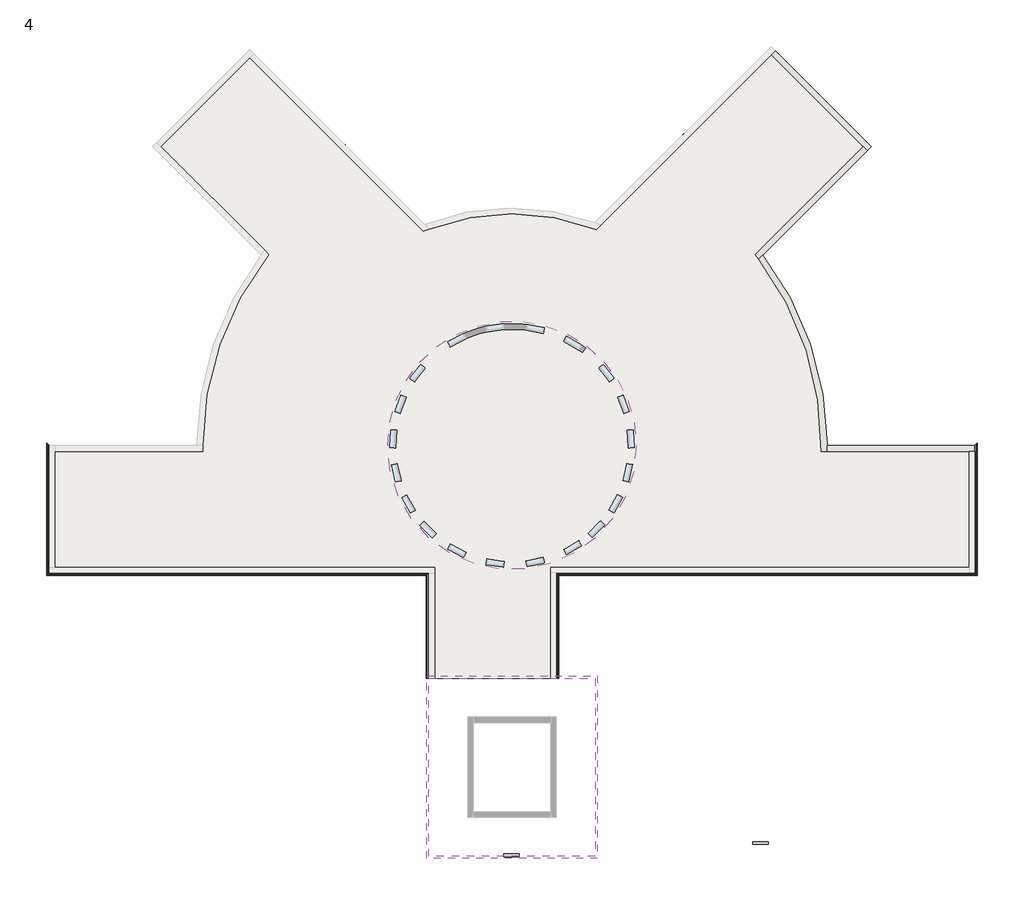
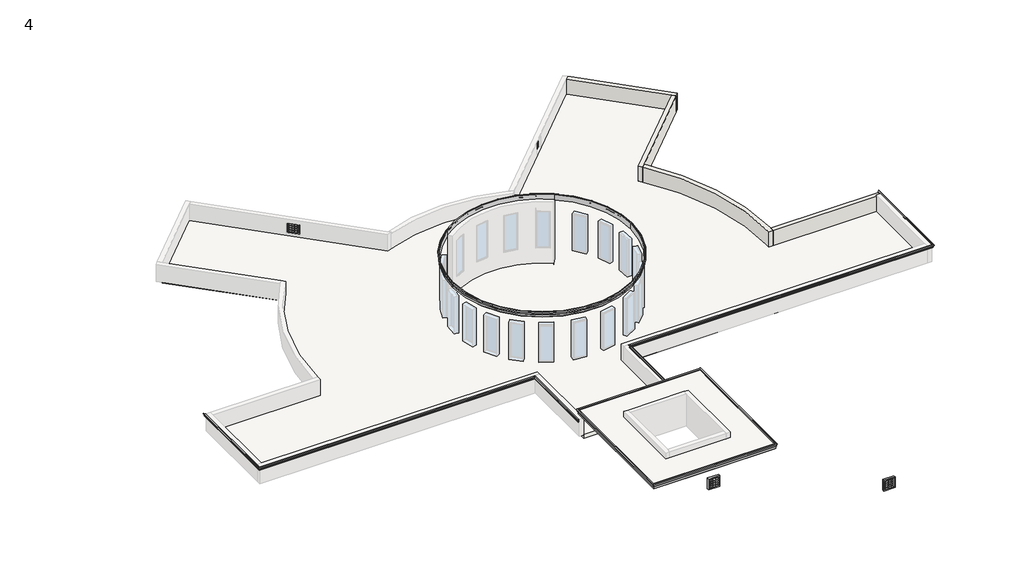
# One storey, part 2 of 2: 7 proxies, 4 walls, 2 slabs.
"""IFC4 building model written with IfcOpenShell, lengths in millimetres."""

from ifc_helpers import new_model, si_unit, point, frame, frame_2d, origin, place, context, project, spatial, polyline, circle_curve, ellipse_curve, trimmed, segment, composite_curve, outline, extrude, faceted_brep, transform, mapped, element, save
from ifc_brep_helpers import plane_surface, cylinder_surface, revolved_surface, advanced_brep
from components import generic_models_3ce4d895, generic_models_3e702864, generic_models_2_generic_models_2_a96ec142, generic_models_3_generic_models_2_9ccc242b

model = new_model("IFC4")

# Units and contexts
model_context = context("Model", 3, world=origin())
ifc_project = project(units=[si_unit("LENGTHUNIT", "METRE", prefix="MILLI")], contexts=[model_context])

# Site, building, storey
site = spatial("IfcSite", under=ifc_project)
building = spatial("IfcBuilding", under=site)
storey = spatial("IfcBuildingStorey", under=building, Name="4", Elevation=7162.8)

# Proxies
placement = place(None, origin())
generic_models_shape = generic_models_3ce4d895(model_context)
element("IfcBuildingElementProxy", 1, Name="stone jhali : stone jhali", ObjectType="stone jhali : stone jhali", at=placement, inside=storey, context=model_context, shape_type="MappedRepresentation", body=[
    mapped(generic_models_shape, transform((-8401.2950906, -15570.7193311, 7639.05), x_axis=(1.0, 0.0, 0.0), y_axis=(0.0, 1.0, 0.0), z_axis=(0.0, 0.0, 1.0))),
])
element("IfcBuildingElementProxy", 2, Name="stone jhali : stone jhali", ObjectType="stone jhali : stone jhali", at=placement, inside=storey, context=model_context, shape_type="MappedRepresentation", body=[
    mapped(generic_models_shape, transform((1403.1049094, -15088.1193311, 3835.4), x_axis=(1.0, 0.0, 0.0), y_axis=(0.0, 1.0, 0.0), z_axis=(0.0, 0.0, 1.0))),
])
element("IfcBuildingElementProxy", 3, Name="stone jhali : stone jhali", ObjectType="stone jhali : stone jhali", at=placement, inside=storey, context=model_context, shape_type="MappedRepresentation", body=[
    mapped(generic_models_shape, transform((-15084.1651691, 12346.4608654, 7615.753114), x_axis=(-0.7071067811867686, 0.7071067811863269, 0.0), y_axis=(-0.7071067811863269, -0.7071067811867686, 0.0), z_axis=(0.0, 0.0, 1.0))),
])
generic_models_2_shape = generic_models_3e702864(model_context)
element("IfcBuildingElementProxy", 4, Name="stone jhali : stone jhali", ObjectType="stone jhali : stone jhali", at=placement, inside=storey, context=model_context, shape_type="MappedRepresentation", body=[
    mapped(generic_models_2_shape, transform((-1745.1990559, 12538.4400572, 7615.753114), x_axis=(0.7071067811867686, 0.7071067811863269, 0.0), y_axis=(-0.7071067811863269, 0.7071067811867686, 0.0), z_axis=(0.0, 0.0, 1.0))),
])
element("IfcBuildingElementProxy", 5, Name="Cornice 3", ObjectType="Cornice 3", at=placement, inside=storey, context=model_context, shape_type="AdvancedBrep", body=[
    advanced_brep(
    [(-26713.7780453, -4572.5193311, 8153.4), (-26637.5780453, -4496.3193311, 8153.4), (-26637.5780453, -4496.3193311, 8001.0), (-26688.3780453, -4547.1193311, 8001.0), (-26688.3780453, -4547.1193311, 8020.05), (-26688.3780453, -4547.1193311, 8039.1), (-26688.3780453, -4547.1193311, 8064.5), (-26695.5217953, -4554.2630811, 8064.5), (-26713.7780453, -4572.5193311, 8093.9009114), (-26713.7780453, -4572.5193311, 8108.95), (-11741.3950906, -4572.5193311, 8153.4), (-11741.3950906, -4572.5193311, 8108.95), (-11741.3950906, -4572.5193311, 8093.9009114), (-11723.1388406, -4554.2630811, 8064.5), (-11715.9950906, -4547.1193311, 8064.5), (-11715.9950906, -4547.1193311, 8039.1), (-11715.9950906, -4547.1193311, 8020.05), (-11715.9950906, -4547.1193311, 8001.0), (-11665.1950906, -4496.3193311, 8001.0), (-11665.1950906, -4496.3193311, 8153.4)],
    [
        (0, 1),
        (1, 2),
        (2, 3),
        (3, 4),
        (4, 5, ellipse_curve(frame((-26688.3780453, -4547.1193311, 8029.575), z_axis=(-0.7071067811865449, 0.7071067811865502, 0.0), x_axis=(-0.7071067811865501, -0.7071067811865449, 0.0)), 13.4703842, 9.525)),
        (5, 6),
        (6, 7),
        (7, 8, ellipse_curve(frame((-26717.0344437, -4575.7757296, 8071.5103895), z_axis=(0.7071067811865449, -0.7071067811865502, 0.0), x_axis=(0.7071067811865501, 0.7071067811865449, 0.0)), 31.9981126, 22.6260824)),
        (8, 9),
        (9, 0, ellipse_curve(frame((-26713.7780453, -4572.5193311, 8131.175), z_axis=(-0.7071067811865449, 0.7071067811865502, 0.0), x_axis=(-0.7071067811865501, -0.7071067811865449, 0.0)), 31.4308964, 22.225)),
        (10, 11, ellipse_curve(frame((-11741.3950906, -4572.5193311, 8131.175), z_axis=(0.7071067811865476, -0.7071067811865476, 0.0), x_axis=(-0.7071067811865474, -0.7071067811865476, 0.0)), 31.4308964, 22.225)),
        (11, 12),
        (12, 13, ellipse_curve(frame((-11744.651489, -4575.7757296, 8071.5103895), z_axis=(-0.7071067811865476, 0.7071067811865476, 0.0), x_axis=(0.7071067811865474, 0.7071067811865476, 0.0)), 31.9981126, 22.6260824)),
        (13, 14),
        (14, 15),
        (15, 16, ellipse_curve(frame((-11715.9950906, -4547.1193311, 8029.575), z_axis=(0.7071067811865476, -0.7071067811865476, 0.0), x_axis=(-0.7071067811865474, -0.7071067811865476, 0.0)), 13.4703842, 9.525)),
        (16, 17),
        (17, 18),
        (18, 19),
        (19, 10),
        (0, 10),
        (19, 1),
        (18, 2),
        (17, 3),
        (16, 4),
        (15, 5),
        (14, 6),
        (13, 7),
        (12, 8),
        (11, 9),
    ],
    [
        plane_surface(frame((-26637.5780453, -4496.3193311, 7696.2), z_axis=(-0.7071067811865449, 0.7071067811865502, 0.0), x_axis=(0.7071067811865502, 0.7071067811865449, 0.0))),
        plane_surface(frame((-11665.1950906, -4496.3193311, 8305.8), z_axis=(0.7071067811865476, -0.7071067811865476, 0.0), x_axis=(-0.7071067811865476, -0.7071067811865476, 0.0))),
        plane_surface(frame((-26713.7780453, -4572.5193311, 8153.4), z_axis=(0.0, 0.0, 1.0), x_axis=(1.0, 0.0, 0.0))),
        plane_surface(frame((-26637.5780453, -4496.3193311, 8153.4), z_axis=(0.0, 1.0, 0.0), x_axis=(1.0, 0.0, 0.0))),
        plane_surface(frame((-26637.5780453, -4496.3193311, 8001.0), z_axis=(0.0, 0.0, -1.0), x_axis=(1.0, 0.0, 0.0))),
        plane_surface(frame((-26688.3780453, -4547.1193311, 8001.0), z_axis=(0.0, -1.0, 0.0), x_axis=(1.0, 0.0, 0.0))),
        cylinder_surface(frame((-26637.5780453, -4547.1193311, 8029.575), z_axis=(-1.0, 0.0, 0.0), x_axis=(0.0, 1.0, 0.0)), 9.525),
        plane_surface(frame((-26688.3780453, -4547.1193311, 8039.1), z_axis=(0.0, -1.0, 0.0), x_axis=(1.0, 0.0, 0.0))),
        plane_surface(frame((-26688.3780453, -4547.1193311, 8064.5), z_axis=(0.0, 0.0, -1.0), x_axis=(1.0, 0.0, 0.0))),
        revolved_surface(polyline([(-11722.025406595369, -4553.1496472, 8071.5103895), (-26739.660526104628, -4553.1496472, 8071.5103895)]), (-26637.5780453, -4575.7757296, 8071.5103895), (1.0, 0.0, 0.0)),
        plane_surface(frame((-26713.7780453, -4572.5193311, 8093.9009114), z_axis=(0.0, -1.0, 0.0), x_axis=(1.0, 0.0, 0.0))),
        cylinder_surface(frame((-26637.5780453, -4572.5193311, 8131.175), z_axis=(-1.0, 0.0, 0.0), x_axis=(0.0, 1.0, 0.0)), 22.225),
    ],
    [
        (0, [[1, 2, 3, 4, 5, 6, 7, 8, 9, 10]]),
        (1, [[11, 12, 13, 14, 15, 16, 17, 18, 19, 20]]),
        (2, [[-1, 21, -20, 22]]),
        (3, [[-2, -22, -19, 23]]),
        (4, [[-3, -23, -18, 24]]),
        (5, [[-4, -24, -17, 25]]),
        (6, [[-5, -25, -16, 26]]),
        (7, [[-6, -26, -15, 27]]),
        (8, [[-7, -27, -14, 28]]),
        (9, [[-8, -28, -13, 29]]),
        (10, [[-9, -29, -12, 30]]),
        (11, [[-10, -30, -11, -21]]),
    ],
),
    advanced_brep(
    [(-6559.7950906, -4572.5193311, 8153.4), (-6635.9950906, -4496.3193311, 8153.4), (-6635.9950906, -4496.3193311, 8001.0), (-6585.1950906, -4547.1193311, 8001.0), (-6585.1950906, -4547.1193311, 8020.05), (-6585.1950906, -4547.1193311, 8039.1), (-6585.1950906, -4547.1193311, 8064.5), (-6578.0513406, -4554.2630811, 8064.5), (-6559.7950906, -4572.5193311, 8093.9009114), (-6559.7950906, -4572.5193311, 8108.95), (9937.5049094, -4572.5193311, 8153.4), (9937.5049094, -4572.5193311, 8108.95), (9937.5049094, -4572.5193311, 8093.9009114), (9919.2486594, -4554.2630811, 8064.5), (9912.1049094, -4547.1193311, 8064.5), (9912.1049094, -4547.1193311, 8039.1), (9912.1049094, -4547.1193311, 8020.05), (9912.1049094, -4547.1193311, 8001.0), (9861.3049094, -4496.3193311, 8001.0), (9861.3049094, -4496.3193311, 8153.4)],
    [
        (0, 1),
        (1, 2),
        (2, 3),
        (3, 4),
        (4, 5, ellipse_curve(frame((-6585.1950906, -4547.1193311, 8029.575), z_axis=(-0.7071067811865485, -0.7071067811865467, 0.0), x_axis=(-0.7071067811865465, 0.7071067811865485, 0.0)), 13.4703842, 9.525)),
        (5, 6),
        (6, 7),
        (7, 8, ellipse_curve(frame((-6556.5386921, -4575.7757296, 8071.5103895), z_axis=(0.7071067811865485, 0.7071067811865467, 0.0), x_axis=(0.7071067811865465, -0.7071067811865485, 0.0)), 31.9981126, 22.6260824)),
        (8, 9),
        (9, 0, ellipse_curve(frame((-6559.7950906, -4572.5193311, 8131.175), z_axis=(-0.7071067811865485, -0.7071067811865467, 0.0), x_axis=(-0.7071067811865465, 0.7071067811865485, 0.0)), 31.4308964, 22.225)),
        (10, 11, ellipse_curve(frame((9937.5049094, -4572.5193311, 8131.175), z_axis=(0.7071067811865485, 0.7071067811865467, 0.0), x_axis=(-0.7071067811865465, 0.7071067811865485, 0.0)), 31.4308964, 22.225)),
        (11, 12),
        (12, 13, ellipse_curve(frame((9940.7613079, -4575.7757296, 8071.5103895), z_axis=(-0.7071067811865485, -0.7071067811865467, 0.0), x_axis=(0.7071067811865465, -0.7071067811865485, 0.0)), 31.9981126, 22.6260824)),
        (13, 14),
        (14, 15),
        (15, 16, ellipse_curve(frame((9912.1049094, -4547.1193311, 8029.575), z_axis=(0.7071067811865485, 0.7071067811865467, 0.0), x_axis=(-0.7071067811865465, 0.7071067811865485, 0.0)), 13.4703842, 9.525)),
        (16, 17),
        (17, 18),
        (18, 19),
        (19, 10),
        (0, 10),
        (19, 1),
        (18, 2),
        (17, 3),
        (16, 4),
        (15, 5),
        (14, 6),
        (13, 7),
        (12, 8),
        (11, 9),
    ],
    [
        plane_surface(frame((-6635.9950906, -4496.3193311, 8305.8), z_axis=(-0.7071067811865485, -0.7071067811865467, 0.0), x_axis=(0.7071067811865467, -0.7071067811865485, 0.0))),
        plane_surface(frame((9861.3049094, -4496.3193311, 7696.2), z_axis=(0.7071067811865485, 0.7071067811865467, 0.0), x_axis=(-0.7071067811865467, 0.7071067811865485, 0.0))),
        plane_surface(frame((-6559.7950906, -4572.5193311, 8153.4), z_axis=(0.0, 0.0, 1.0), x_axis=(1.0, 0.0, 0.0))),
        plane_surface(frame((-6635.9950906, -4496.3193311, 8153.4), z_axis=(0.0, 1.0, 0.0), x_axis=(1.0, 0.0, 0.0))),
        plane_surface(frame((-6635.9950906, -4496.3193311, 8001.0), z_axis=(0.0, 0.0, -1.0), x_axis=(1.0, 0.0, 0.0))),
        plane_surface(frame((-6585.1950906, -4547.1193311, 8001.0), z_axis=(0.0, -1.0, 0.0), x_axis=(1.0, 0.0, 0.0))),
        cylinder_surface(frame((-6635.9950906, -4547.1193311, 8029.575), z_axis=(-1.0, 0.0, 0.0), x_axis=(0.0, 1.0, 0.0)), 9.525),
        plane_surface(frame((-6585.1950906, -4547.1193311, 8039.1), z_axis=(0.0, -1.0, 0.0), x_axis=(1.0, 0.0, 0.0))),
        plane_surface(frame((-6585.1950906, -4547.1193311, 8064.5), z_axis=(0.0, 0.0, -1.0), x_axis=(1.0, 0.0, 0.0))),
        revolved_surface(polyline([(9963.38739030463, -4553.1496472, 8071.5103895), (-6579.16477450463, -4553.1496472, 8071.5103895)]), (-6635.9950906, -4575.7757296, 8071.5103895), (1.0, 0.0, 0.0)),
        plane_surface(frame((-6559.7950906, -4572.5193311, 8093.9009114), z_axis=(0.0, -1.0, 0.0), x_axis=(1.0, 0.0, 0.0))),
        cylinder_surface(frame((-6635.9950906, -4572.5193311, 8131.175), z_axis=(-1.0, 0.0, 0.0), x_axis=(0.0, 1.0, 0.0)), 22.225),
    ],
    [
        (0, [[1, 2, 3, 4, 5, 6, 7, 8, 9, 10]]),
        (1, [[11, 12, 13, 14, 15, 16, 17, 18, 19, 20]]),
        (2, [[-1, 21, -20, 22]]),
        (3, [[-2, -22, -19, 23]]),
        (4, [[-3, -23, -18, 24]]),
        (5, [[-4, -24, -17, 25]]),
        (6, [[-5, -25, -16, 26]]),
        (7, [[-6, -26, -15, 27]]),
        (8, [[-7, -27, -14, 28]]),
        (9, [[-8, -28, -13, 29]]),
        (10, [[-9, -29, -12, 30]]),
        (11, [[-10, -30, -11, -21]]),
    ],
),
    advanced_brep(
    [(-6559.7950906, -8649.2193311, 8153.4), (-6635.9950906, -8649.2193311, 8153.4), (-6635.9950906, -8649.2193311, 8001.0), (-6585.1950906, -8649.2193311, 8001.0), (-6585.1950906, -8649.2193311, 8020.05), (-6585.1950906, -8649.2193311, 8039.1), (-6585.1950906, -8649.2193311, 8064.5), (-6578.0513406, -8649.2193311, 8064.5), (-6559.7950906, -8649.2193311, 8093.9009114), (-6559.7950906, -8649.2193311, 8108.95), (-6559.7950906, -4572.5193311, 8153.4), (-6559.7950906, -4572.5193311, 8108.95), (-6559.7950906, -4572.5193311, 8093.9009114), (-6578.0513406, -4554.2630811, 8064.5), (-6585.1950906, -4547.1193311, 8064.5), (-6585.1950906, -4547.1193311, 8039.1), (-6585.1950906, -4547.1193311, 8020.05), (-6585.1950906, -4547.1193311, 8001.0), (-6635.9950906, -4496.3193311, 8001.0), (-6635.9950906, -4496.3193311, 8153.4)],
    [
        (0, 1),
        (1, 2),
        (2, 3),
        (3, 4),
        (4, 5, circle_curve(frame((-6585.1950906, -8649.2193311, 8029.575), z_axis=(0.0, -1.0, 0.0), x_axis=(-1.0, 0.0, 0.0)), 9.525)),
        (5, 6),
        (6, 7),
        (7, 8, circle_curve(frame((-6556.5386921, -8649.2193311, 8071.5103895), z_axis=(0.0, 1.0, 0.0), x_axis=(-1.0, 0.0, 0.0)), 22.6260824)),
        (8, 9),
        (9, 0, circle_curve(frame((-6559.7950906, -8649.2193311, 8131.175), z_axis=(0.0, -1.0, 0.0), x_axis=(-1.0, 0.0, 0.0)), 22.225)),
        (10, 11, ellipse_curve(frame((-6559.7950906, -4572.5193311, 8131.175), z_axis=(0.7071067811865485, 0.7071067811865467, 0.0), x_axis=(0.7071067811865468, -0.7071067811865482, 0.0)), 31.4308964, 22.225)),
        (11, 12),
        (12, 13, ellipse_curve(frame((-6556.5386921, -4575.7757296, 8071.5103895), z_axis=(-0.7071067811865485, -0.7071067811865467, 0.0), x_axis=(-0.7071067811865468, 0.7071067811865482, 0.0)), 31.9981126, 22.6260824)),
        (13, 14),
        (14, 15),
        (15, 16, ellipse_curve(frame((-6585.1950906, -4547.1193311, 8029.575), z_axis=(0.7071067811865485, 0.7071067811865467, 0.0), x_axis=(0.7071067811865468, -0.7071067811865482, 0.0)), 13.4703842, 9.525)),
        (16, 17),
        (17, 18),
        (18, 19),
        (19, 10),
        (0, 10),
        (19, 1),
        (18, 2),
        (17, 3),
        (16, 4),
        (15, 5),
        (14, 6),
        (13, 7),
        (12, 8),
        (11, 9),
    ],
    [
        plane_surface(frame((-6808.9632976, -8649.2193311, 8001.0), z_axis=(0.0, -1.0, 0.0), x_axis=(0.0, 0.0, 1.0))),
        plane_surface(frame((-6635.9950906, -4496.3193311, 8305.8), z_axis=(0.7071067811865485, 0.7071067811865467, 0.0), x_axis=(0.7071067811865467, -0.7071067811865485, 0.0))),
        plane_surface(frame((-6559.7950906, -8649.2193311, 8153.4), z_axis=(0.0, 0.0, 1.0), x_axis=(0.0, 1.0, 0.0))),
        plane_surface(frame((-6635.9950906, -8649.2193311, 8153.4), z_axis=(-1.0, 0.0, 0.0), x_axis=(0.0, 1.0, 0.0))),
        plane_surface(frame((-6635.9950906, -8649.2193311, 8001.0), z_axis=(0.0, 0.0, -1.0), x_axis=(0.0, 1.0, 0.0))),
        plane_surface(frame((-6585.1950906, -8649.2193311, 8001.0), z_axis=(1.0, 0.0, 0.0), x_axis=(0.0, 1.0, 0.0))),
        cylinder_surface(frame((-6585.1950906, -8649.2193311, 8029.575), z_axis=(0.0, -1.0, 0.0), x_axis=(-1.0, 0.0, 0.0)), 9.525),
        plane_surface(frame((-6585.1950906, -8649.2193311, 8039.1), z_axis=(1.0, 0.0, 0.0), x_axis=(0.0, 1.0, 0.0))),
        plane_surface(frame((-6585.1950906, -8649.2193311, 8064.5), z_axis=(0.0, 0.0, -1.0), x_axis=(0.0, 1.0, 0.0))),
        revolved_surface(polyline([(-6579.1647745, -4553.14964719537, 8071.5103895), (-6579.1647745, -8649.2193311, 8071.5103895)]), (-6556.5386921, -8649.2193311, 8071.5103895), (0.0, 1.0, 0.0)),
        plane_surface(frame((-6559.7950906, -8649.2193311, 8093.9009114), z_axis=(1.0, 0.0, 0.0), x_axis=(0.0, 1.0, 0.0))),
        cylinder_surface(frame((-6559.7950906, -8649.2193311, 8131.175), z_axis=(0.0, -1.0, 0.0), x_axis=(-1.0, 0.0, 0.0)), 22.225),
    ],
    [
        (0, [[1, 2, 3, 4, 5, 6, 7, 8, 9, 10]]),
        (1, [[11, 12, 13, 14, 15, 16, 17, 18, 19, 20]]),
        (2, [[-1, 21, -20, 22]]),
        (3, [[-2, -22, -19, 23]]),
        (4, [[-3, -23, -18, 24]]),
        (5, [[-4, -24, -17, 25]]),
        (6, [[-5, -25, -16, 26]]),
        (7, [[-6, -26, -15, 27]]),
        (8, [[-7, -27, -14, 28]]),
        (9, [[-8, -28, -13, 29]]),
        (10, [[-9, -29, -12, 30]]),
        (11, [[-10, -30, -11, -21]]),
    ],
),
    advanced_brep(
    [(9937.5049094, -4572.5193311, 8153.4), (9861.3049094, -4496.3193311, 8153.4), (9861.3049094, -4496.3193311, 8001.0), (9912.1049094, -4547.1193311, 8001.0), (9912.1049094, -4547.1193311, 8020.05), (9912.1049094, -4547.1193311, 8039.1), (9912.1049094, -4547.1193311, 8064.5), (9919.2486594, -4554.2630811, 8064.5), (9937.5049094, -4572.5193311, 8093.9009114), (9937.5049094, -4572.5193311, 8108.95), (9937.5049094, 609.0806689, 8153.4), (9937.5049094, 609.0806689, 8108.95), (9937.5049094, 609.0806689, 8093.9009114), (9919.2486594, 590.8244189, 8064.5), (9912.1049094, 583.6806689, 8064.5), (9912.1049094, 583.6806689, 8039.1), (9912.1049094, 583.6806689, 8020.05), (9912.1049094, 583.6806689, 8001.0), (9861.3049094, 532.8806689, 8001.0), (9861.3049094, 532.8806689, 8153.4)],
    [
        (0, 1),
        (1, 2),
        (2, 3),
        (3, 4),
        (4, 5, ellipse_curve(frame((9912.1049094, -4547.1193311, 8029.575), z_axis=(-0.7071067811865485, -0.7071067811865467, 0.0), x_axis=(0.7071067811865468, -0.7071067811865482, 0.0)), 13.4703842, 9.525)),
        (5, 6),
        (6, 7),
        (7, 8, ellipse_curve(frame((9940.7613079, -4575.7757296, 8071.5103895), z_axis=(0.7071067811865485, 0.7071067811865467, 0.0), x_axis=(-0.7071067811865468, 0.7071067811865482, 0.0)), 31.9981126, 22.6260824)),
        (8, 9),
        (9, 0, ellipse_curve(frame((9937.5049094, -4572.5193311, 8131.175), z_axis=(-0.7071067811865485, -0.7071067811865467, 0.0), x_axis=(0.7071067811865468, -0.7071067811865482, 0.0)), 31.4308964, 22.225)),
        (10, 11, ellipse_curve(frame((9937.5049094, 609.0806689, 8131.175), z_axis=(-0.7071067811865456, 0.7071067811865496, 0.0), x_axis=(-0.7071067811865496, -0.7071067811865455, 0.0)), 31.4308964, 22.225)),
        (11, 12),
        (12, 13, ellipse_curve(frame((9940.7613079, 612.3370673, 8071.5103895), z_axis=(0.7071067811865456, -0.7071067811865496, 0.0), x_axis=(0.7071067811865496, 0.7071067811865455, 0.0)), 31.9981126, 22.6260824)),
        (13, 14),
        (14, 15),
        (15, 16, ellipse_curve(frame((9912.1049094, 583.6806689, 8029.575), z_axis=(-0.7071067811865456, 0.7071067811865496, 0.0), x_axis=(-0.7071067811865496, -0.7071067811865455, 0.0)), 13.4703842, 9.525)),
        (16, 17),
        (17, 18),
        (18, 19),
        (19, 10),
        (0, 10),
        (19, 1),
        (18, 2),
        (17, 3),
        (16, 4),
        (15, 5),
        (14, 6),
        (13, 7),
        (12, 8),
        (11, 9),
    ],
    [
        plane_surface(frame((9861.3049094, -4496.3193311, 7696.2), z_axis=(-0.7071067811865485, -0.7071067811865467, 0.0), x_axis=(-0.7071067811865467, 0.7071067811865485, 0.0))),
        plane_surface(frame((9861.3049094, 532.8806689, 7696.2), z_axis=(-0.7071067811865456, 0.7071067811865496, 0.0), x_axis=(-0.7071067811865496, -0.7071067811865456, 0.0))),
        plane_surface(frame((9937.5049094, -4572.5193311, 8153.4), z_axis=(0.0, 0.0, 1.0), x_axis=(0.0, 1.0, 0.0))),
        plane_surface(frame((9861.3049094, -4496.3193311, 8153.4), z_axis=(-1.0, 0.0, 0.0), x_axis=(0.0, 1.0, 0.0))),
        plane_surface(frame((9861.3049094, -4496.3193311, 8001.0), z_axis=(0.0, 0.0, -1.0), x_axis=(0.0, 1.0, 0.0))),
        plane_surface(frame((9912.1049094, -4547.1193311, 8001.0), z_axis=(1.0, 0.0, 0.0), x_axis=(0.0, 1.0, 0.0))),
        cylinder_surface(frame((9912.1049094, -4496.3193311, 8029.575), z_axis=(0.0, -1.0, 0.0), x_axis=(-1.0, 0.0, 0.0)), 9.525),
        plane_surface(frame((9912.1049094, -4547.1193311, 8039.1), z_axis=(1.0, 0.0, 0.0), x_axis=(0.0, 1.0, 0.0))),
        plane_surface(frame((9912.1049094, -4547.1193311, 8064.5), z_axis=(0.0, 0.0, -1.0), x_axis=(0.0, 1.0, 0.0))),
        revolved_surface(polyline([(9918.1352255, 634.9631497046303, 8071.5103895), (9918.1352255, -4598.40181200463, 8071.5103895)]), (9940.7613079, -4496.3193311, 8071.5103895), (0.0, 1.0, 0.0)),
        plane_surface(frame((9937.5049094, -4572.5193311, 8093.9009114), z_axis=(1.0, 0.0, 0.0), x_axis=(0.0, 1.0, 0.0))),
        cylinder_surface(frame((9937.5049094, -4496.3193311, 8131.175), z_axis=(0.0, -1.0, 0.0), x_axis=(-1.0, 0.0, 0.0)), 22.225),
    ],
    [
        (0, [[1, 2, 3, 4, 5, 6, 7, 8, 9, 10]]),
        (1, [[11, 12, 13, 14, 15, 16, 17, 18, 19, 20]]),
        (2, [[-1, 21, -20, 22]]),
        (3, [[-2, -22, -19, 23]]),
        (4, [[-3, -23, -18, 24]]),
        (5, [[-4, -24, -17, 25]]),
        (6, [[-5, -25, -16, 26]]),
        (7, [[-6, -26, -15, 27]]),
        (8, [[-7, -27, -14, 28]]),
        (9, [[-8, -28, -13, 29]]),
        (10, [[-9, -29, -12, 30]]),
        (11, [[-10, -30, -11, -21]]),
    ],
),
    advanced_brep(
    [(-11741.3950906, -4572.5193311, 8153.4), (-11665.1950906, -4496.3193311, 8153.4), (-11665.1950906, -4496.3193311, 8001.0), (-11715.9950906, -4547.1193311, 8001.0), (-11715.9950906, -4547.1193311, 8020.05), (-11715.9950906, -4547.1193311, 8039.1), (-11715.9950906, -4547.1193311, 8064.5), (-11723.1388406, -4554.2630811, 8064.5), (-11741.3950906, -4572.5193311, 8093.9009114), (-11741.3950906, -4572.5193311, 8108.95), (-11741.3950906, -8649.2193311, 8153.4), (-11741.3950906, -8649.2193311, 8108.95), (-11741.3950906, -8649.2193311, 8093.9009114), (-11723.1388406, -8649.2193311, 8064.5), (-11715.9950906, -8649.2193311, 8064.5), (-11715.9950906, -8649.2193311, 8039.1), (-11715.9950906, -8649.2193311, 8020.05), (-11715.9950906, -8649.2193311, 8001.0), (-11665.1950906, -8649.2193311, 8001.0), (-11665.1950906, -8649.2193311, 8153.4)],
    [
        (0, 1),
        (1, 2),
        (2, 3),
        (3, 4),
        (4, 5, ellipse_curve(frame((-11715.9950906, -4547.1193311, 8029.575), z_axis=(-0.7071067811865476, 0.7071067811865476, 0.0), x_axis=(0.7071067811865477, 0.7071067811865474, 0.0)), 13.4703842, 9.525)),
        (5, 6),
        (6, 7),
        (7, 8, ellipse_curve(frame((-11744.651489, -4575.7757296, 8071.5103895), z_axis=(0.7071067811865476, -0.7071067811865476, 0.0), x_axis=(-0.7071067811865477, -0.7071067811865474, 0.0)), 31.9981126, 22.6260824)),
        (8, 9),
        (9, 0, ellipse_curve(frame((-11741.3950906, -4572.5193311, 8131.175), z_axis=(-0.7071067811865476, 0.7071067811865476, 0.0), x_axis=(0.7071067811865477, 0.7071067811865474, 0.0)), 31.4308964, 22.225)),
        (10, 11, circle_curve(frame((-11741.3950906, -8649.2193311, 8131.175), z_axis=(0.0, -1.0, 0.0), x_axis=(1.0, 0.0, 0.0)), 22.225)),
        (11, 12),
        (12, 13, circle_curve(frame((-11744.651489, -8649.2193311, 8071.5103895), z_axis=(0.0, 1.0, 0.0), x_axis=(1.0, 0.0, 0.0)), 22.6260824)),
        (13, 14),
        (14, 15),
        (15, 16, circle_curve(frame((-11715.9950906, -8649.2193311, 8029.575), z_axis=(0.0, -1.0, 0.0), x_axis=(1.0, 0.0, 0.0)), 9.525)),
        (16, 17),
        (17, 18),
        (18, 19),
        (19, 10),
        (0, 10),
        (19, 1),
        (18, 2),
        (17, 3),
        (16, 4),
        (15, 5),
        (14, 6),
        (13, 7),
        (12, 8),
        (11, 9),
    ],
    [
        plane_surface(frame((-11665.1950906, -4496.3193311, 8305.8), z_axis=(-0.7071067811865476, 0.7071067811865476, 0.0), x_axis=(-0.7071067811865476, -0.7071067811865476, 0.0))),
        plane_surface(frame((-11838.1632976, -8649.2193311, 8001.0), z_axis=(0.0, -1.0, 0.0), x_axis=(0.0, 0.0, -1.0))),
        plane_surface(frame((-11741.3950906, -4572.5193311, 8153.4), z_axis=(0.0, 0.0, 1.0), x_axis=(0.0, -1.0, 0.0))),
        plane_surface(frame((-11665.1950906, -4496.3193311, 8153.4), z_axis=(1.0, 0.0, 0.0), x_axis=(0.0, -1.0, 0.0))),
        plane_surface(frame((-11665.1950906, -4496.3193311, 8001.0), z_axis=(0.0, 0.0, -1.0), x_axis=(0.0, -1.0, 0.0))),
        plane_surface(frame((-11715.9950906, -4547.1193311, 8001.0), z_axis=(-1.0, 0.0, 0.0), x_axis=(0.0, -1.0, 0.0))),
        cylinder_surface(frame((-11715.9950906, -4496.3193311, 8029.575), z_axis=(0.0, 1.0, 0.0), x_axis=(1.0, 0.0, 0.0)), 9.525),
        plane_surface(frame((-11715.9950906, -4547.1193311, 8039.1), z_axis=(-1.0, 0.0, 0.0), x_axis=(0.0, -1.0, 0.0))),
        plane_surface(frame((-11715.9950906, -4547.1193311, 8064.5), z_axis=(0.0, 0.0, -1.0), x_axis=(0.0, -1.0, 0.0))),
        revolved_surface(polyline([(-11722.0254066, -8649.2193311, 8071.5103895), (-11722.0254066, -4553.14964719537, 8071.5103895)]), (-11744.651489, -4496.3193311, 8071.5103895), (0.0, -1.0, 0.0)),
        plane_surface(frame((-11741.3950906, -4572.5193311, 8093.9009114), z_axis=(-1.0, 0.0, 0.0), x_axis=(0.0, -1.0, 0.0))),
        cylinder_surface(frame((-11741.3950906, -4496.3193311, 8131.175), z_axis=(0.0, 1.0, 0.0), x_axis=(1.0, 0.0, 0.0)), 22.225),
    ],
    [
        (0, [[1, 2, 3, 4, 5, 6, 7, 8, 9, 10]]),
        (1, [[11, 12, 13, 14, 15, 16, 17, 18, 19, 20]]),
        (2, [[-1, 21, -20, 22]]),
        (3, [[-2, -22, -19, 23]]),
        (4, [[-3, -23, -18, 24]]),
        (5, [[-4, -24, -17, 25]]),
        (6, [[-5, -25, -16, 26]]),
        (7, [[-6, -26, -15, 27]]),
        (8, [[-7, -27, -14, 28]]),
        (9, [[-8, -28, -13, 29]]),
        (10, [[-9, -29, -12, 30]]),
        (11, [[-10, -30, -11, -21]]),
    ],
),
    advanced_brep(
    [(-26713.7780453, 609.0806689, 8153.4), (-26637.5780453, 532.8806689, 8153.4), (-26637.5780453, 532.8806689, 8001.0), (-26688.3780453, 583.6806689, 8001.0), (-26688.3780453, 583.6806689, 8020.05), (-26688.3780453, 583.6806689, 8039.1), (-26688.3780453, 583.6806689, 8064.5), (-26695.5217953, 590.8244189, 8064.5), (-26713.7780453, 609.0806689, 8093.9009114), (-26713.7780453, 609.0806689, 8108.95), (-26713.7780453, -4572.5193311, 8153.4), (-26713.7780453, -4572.5193311, 8108.95), (-26713.7780453, -4572.5193311, 8093.9009114), (-26695.5217953, -4554.2630811, 8064.5), (-26688.3780453, -4547.1193311, 8064.5), (-26688.3780453, -4547.1193311, 8039.1), (-26688.3780453, -4547.1193311, 8020.05), (-26688.3780453, -4547.1193311, 8001.0), (-26637.5780453, -4496.3193311, 8001.0), (-26637.5780453, -4496.3193311, 8153.4)],
    [
        (0, 1),
        (1, 2),
        (2, 3),
        (3, 4),
        (4, 5, ellipse_curve(frame((-26688.3780453, 583.6806689, 8029.575), z_axis=(0.7071067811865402, 0.7071067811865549, 0.0), x_axis=(-0.7071067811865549, 0.70710678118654, 0.0)), 13.4703842, 9.525)),
        (5, 6),
        (6, 7),
        (7, 8, ellipse_curve(frame((-26717.0344437, 612.3370673, 8071.5103895), z_axis=(-0.7071067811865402, -0.7071067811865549, 0.0), x_axis=(0.7071067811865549, -0.70710678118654, 0.0)), 31.9981126, 22.6260824)),
        (8, 9),
        (9, 0, ellipse_curve(frame((-26713.7780453, 609.0806689, 8131.175), z_axis=(0.7071067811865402, 0.7071067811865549, 0.0), x_axis=(-0.7071067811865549, 0.70710678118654, 0.0)), 31.4308964, 22.225)),
        (10, 11, ellipse_curve(frame((-26713.7780453, -4572.5193311, 8131.175), z_axis=(0.7071067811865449, -0.7071067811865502, 0.0), x_axis=(0.7071067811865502, 0.7071067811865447, 0.0)), 31.4308964, 22.225)),
        (11, 12),
        (12, 13, ellipse_curve(frame((-26717.0344437, -4575.7757296, 8071.5103895), z_axis=(-0.7071067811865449, 0.7071067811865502, 0.0), x_axis=(-0.7071067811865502, -0.7071067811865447, 0.0)), 31.9981126, 22.6260824)),
        (13, 14),
        (14, 15),
        (15, 16, ellipse_curve(frame((-26688.3780453, -4547.1193311, 8029.575), z_axis=(0.7071067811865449, -0.7071067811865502, 0.0), x_axis=(0.7071067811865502, 0.7071067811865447, 0.0)), 13.4703842, 9.525)),
        (16, 17),
        (17, 18),
        (18, 19),
        (19, 10),
        (0, 10),
        (19, 1),
        (18, 2),
        (17, 3),
        (16, 4),
        (15, 5),
        (14, 6),
        (13, 7),
        (12, 8),
        (11, 9),
    ],
    [
        plane_surface(frame((-26637.5780453, 532.8806689, 7696.2), z_axis=(0.7071067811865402, 0.7071067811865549, 0.0), x_axis=(0.7071067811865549, -0.7071067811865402, 0.0))),
        plane_surface(frame((-26637.5780453, -4496.3193311, 7696.2), z_axis=(0.7071067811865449, -0.7071067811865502, 0.0), x_axis=(0.7071067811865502, 0.7071067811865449, 0.0))),
        plane_surface(frame((-26713.7780453, 609.0806689, 8153.4), z_axis=(0.0, 0.0, 1.0), x_axis=(0.0, -1.0, 0.0))),
        plane_surface(frame((-26637.5780453, 532.8806689, 8153.4), z_axis=(1.0, 0.0, 0.0), x_axis=(0.0, -1.0, 0.0))),
        plane_surface(frame((-26637.5780453, 532.8806689, 8001.0), z_axis=(0.0, 0.0, -1.0), x_axis=(0.0, -1.0, 0.0))),
        plane_surface(frame((-26688.3780453, 583.6806689, 8001.0), z_axis=(-1.0, 0.0, 0.0), x_axis=(0.0, -1.0, 0.0))),
        cylinder_surface(frame((-26688.3780453, 532.8806689, 8029.575), z_axis=(0.0, 1.0, 0.0), x_axis=(1.0, 0.0, 0.0)), 9.525),
        plane_surface(frame((-26688.3780453, 583.6806689, 8039.1), z_axis=(-1.0, 0.0, 0.0), x_axis=(0.0, -1.0, 0.0))),
        plane_surface(frame((-26688.3780453, 583.6806689, 8064.5), z_axis=(0.0, 0.0, -1.0), x_axis=(0.0, -1.0, 0.0))),
        revolved_surface(polyline([(-26694.4083613, -4598.40181200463, 8071.5103895), (-26694.4083613, 634.9631497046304, 8071.5103895)]), (-26717.0344437, 532.8806689, 8071.5103895), (0.0, -1.0, 0.0)),
        plane_surface(frame((-26713.7780453, 609.0806689, 8093.9009114), z_axis=(-1.0, 0.0, 0.0), x_axis=(0.0, -1.0, 0.0))),
        cylinder_surface(frame((-26713.7780453, 532.8806689, 8131.175), z_axis=(0.0, 1.0, 0.0), x_axis=(1.0, 0.0, 0.0)), 22.225),
    ],
    [
        (0, [[1, 2, 3, 4, 5, 6, 7, 8, 9, 10]]),
        (1, [[11, 12, 13, 14, 15, 16, 17, 18, 19, 20]]),
        (2, [[-1, 21, -20, 22]]),
        (3, [[-2, -22, -19, 23]]),
        (4, [[-3, -23, -18, 24]]),
        (5, [[-4, -24, -17, 25]]),
        (6, [[-5, -25, -16, 26]]),
        (7, [[-6, -26, -15, 27]]),
        (8, [[-7, -27, -14, 28]]),
        (9, [[-8, -28, -13, 29]]),
        (10, [[-9, -29, -12, 30]]),
        (11, [[-10, -30, -11, -21]]),
    ],
),
])
generic_models_2_generic_models_2_shape = generic_models_2_generic_models_2_a96ec142(model_context)
element("IfcBuildingElementProxy", 6, Name="Generic Models 2 : Generic Models 2", ObjectType="Generic Models 2 : Generic Models 2", at=placement, inside=storey, context=model_context, shape_type="MappedRepresentation", body=[
    mapped(generic_models_2_generic_models_2_shape, transform((0.0, 0.0, 0.0), x_axis=(1.0, 0.0, 0.0), y_axis=(0.0, 1.0, 0.0), z_axis=(0.0, 0.0, 1.0))),
])
generic_models_3_generic_models_2_shape = generic_models_3_generic_models_2_9ccc242b(model_context)
element("IfcBuildingElementProxy", 7, Name="Generic Models 3 : Generic Models 2", ObjectType="Generic Models 3 : Generic Models 2", at=placement, inside=storey, context=model_context, shape_type="MappedRepresentation", body=[
    mapped(generic_models_3_generic_models_2_shape, transform((0.0, 0.0, 0.0), x_axis=(1.0, 0.0, 0.0), y_axis=(0.0, 1.0, 0.0), z_axis=(0.0, 0.0, 1.0))),
])

# Slabs
element("IfcSlab", 8, ObjectType="230mm slab 2", at=placement, inside=storey, context=model_context, shape_type="SweptSolid", body=[
    extrude(outline(polyline([(-5111.9950906, -8649.2193311), (-5111.9950906, -15659.6193311), (-11665.1950906, -15659.6193311), (-11665.1950906, -8649.2193311), (-5111.9950906, -8649.2193311)]), holes=[polyline([(-6635.9950906, -10173.2193311), (-10141.1950906, -10173.2193311), (-10141.1950906, -14135.6193311), (-6635.9950906, -14135.6193311), (-6635.9950906, -10173.2193311)])]), frame((0.0, 0.0, 8458.2), z_axis=(0.0, 0.0, 1.0), x_axis=(1.0, 0.0, 0.0)), (0.0, 0.0, 1.0), 228.6),
])
element("IfcSlab", 9, ObjectType="230mm slab 3", at=placement, inside=storey, context=model_context, shape_type="SweptSolid", body=[
    extrude(outline(composite_curve([segment(polyline([(-18727.158041, 15824.9304268), (-11881.3849732, 8984.3739685)]), True, "CONTINUOUS"), segment(trimmed(circle_curve(frame_2d((-8388.7443851, 533.6818239)), 9144.0), [point((-11881.3849732, 8984.3739685))], [point((-5068.436439, 9053.5580638))], False, "CARTESIAN"), True, "CONTINUOUS"), segment(polyline([(-5068.436439, 9053.5580638), (1825.803443, 15947.7979458), (5449.8120125, 12323.7893763), (1196.5789255, 8070.5562894)]), True, "CONTINUOUS"), segment(trimmed(circle_curve(frame_2d((-8388.5950906, 536.0156211)), 12192.0), [point((1196.5789255, 8070.5562894))], [point((3801.2024021, 304.2806689))], False, "CARTESIAN"), True, "CONTINUOUS"), segment(polyline([(3801.2024021, 304.2806689), (9632.7049094, 304.2806689), (9632.7049094, -4267.7193311), (-6864.5950906, -4267.7193311), (-6864.5950906, -8649.2193311), (-11436.5950906, -8649.2193311), (-11436.5950906, -4267.7193311), (-26408.9780453, -4267.7193311), (-26408.9780453, 304.2806689), (-20578.3925832, 304.2806689)]), True, "CONTINUOUS"), segment(trimmed(circle_curve(frame_2d((-8388.5950906, 536.0156211)), 12192.0), [point((-20578.3925832, 304.2806689))], [point((-17973.7691067, 8070.5562893))], False, "CARTESIAN"), True, "CONTINUOUS"), segment(polyline([(-17973.7691067, 8070.5562893), (-22227.6506425, 12324.4378252), (-18727.158041, 15824.9304268)]), True, "CONTINUOUS")], self_intersect=False)), frame((0.0, 0.0, 6985.0), z_axis=(0.0, 0.0, 1.0), x_axis=(1.0, 0.0, 0.0)), (0.0, 0.0, 1.0), 228.6),
])

# Walls
element("IfcWall", 10, ObjectType="PARAPET", at=placement, inside=storey, context=model_context, shape_type="Brep", body=[
    faceted_brep([(5773.1012328, 12323.7893763, 7162.8), (1987.4480531, 16109.442556, 7162.8), (1987.4480531, 16109.442556, 7315.2), (1987.4480531, 16109.442556, 7435.85), (1987.4480531, 16109.442556, 8001.0), (1987.4480531, 16109.442556, 8077.2), (5773.1012328, 12323.7893763, 8077.2), (5773.1012328, 12323.7893763, 8001.0), (5773.1012328, 12323.7893763, 7924.8), (5773.1012328, 12323.7893763, 7435.85), (5773.1012328, 12323.7893763, 7315.2), (1825.803443, 15947.7979458, 7162.8), (5449.8120125, 12323.7893763, 7162.8), (5611.4566226, 12162.1447661, 7162.8), (5611.4566226, 12162.1447661, 7315.2), (5611.4566226, 12162.1447661, 7435.85), (5611.4566226, 12162.1447661, 7924.8), (5611.4566226, 12162.1447661, 8077.2), (5449.8120125, 12323.7893763, 8077.2), (1825.803443, 15947.7979458, 8077.2)], [[[0, 1, 2, 3, 4, 5, 6, 7, 8, 9, 10]], [[11, 12, 13, 14, 15, 16, 17, 18, 19]], [[1, 0, 13, 12, 11]], [[6, 5, 19, 18, 17]], [[6, 17, 16, 15, 14, 13, 0, 10, 9, 8, 7]], [[1, 11, 19, 5, 4, 3, 2]]]),
])
element("IfcWall", 11, ObjectType="PARAPET", at=placement, inside=storey, context=model_context, shape_type="AdvancedBrep", body=[
    advanced_brep(
    [(1337.3096241, 7887.9977676, 7162.8), (1500.4794478, 8051.1675913, 7162.8), (5611.4566226, 12162.1447661, 7162.8), (5611.4566226, 12162.1447661, 7315.2), (5611.4566226, 12162.1447661, 7435.85), (5611.4566226, 12162.1447661, 7924.8), (5611.4566226, 12162.1447661, 8077.2), (1500.4794478, 8051.1675913, 8077.2), (1337.3096241, 7887.9977676, 8077.2), (5449.8120125, 12323.7893763, 7162.8), (1196.5789255, 8070.5562894, 7162.8), (1196.5789255, 8070.5562894, 8077.2), (5449.8120125, 12323.7893763, 8077.2)],
    [
        (0, 1),
        (1, 2),
        (2, 3),
        (3, 4),
        (4, 5),
        (5, 6),
        (6, 7),
        (7, 8),
        (8, 0),
        (9, 10),
        (10, 11),
        (11, 12),
        (12, 9),
        (0, 10, circle_curve(frame((-8388.5950906, 536.0156211, 7162.8), z_axis=(0.0, 0.0, 1.0), x_axis=(1.0, 0.0, 0.0)), 12192.0)),
        (9, 2),
        (11, 8, circle_curve(frame((-8388.5950906, 536.0156211, 8077.2), z_axis=(0.0, 0.0, -1.0), x_axis=(1.0, 0.0, 0.0)), 12192.0)),
        (6, 12),
    ],
    [
        plane_surface(frame((1500.4794478, 8051.1675913, 7162.8), z_axis=(0.7071067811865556, -0.7071067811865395, 0.0), x_axis=(0.7071067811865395, 0.7071067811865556, 0.0))),
        plane_surface(frame((1338.8348376, 8212.8122015, 7162.8), z_axis=(-0.7071067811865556, 0.7071067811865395, 0.0), x_axis=(-0.7071067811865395, -0.7071067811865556, 0.0))),
        plane_surface(frame((1429.6445695, 7980.332713, 7162.8), z_axis=(0.0, 0.0, -1.0), x_axis=(-0.7071067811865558, 0.7071067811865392, 0.0))),
        plane_surface(frame((5692.2789277, 12242.9670712, 8077.2), z_axis=(0.0, 0.0, 1.0000000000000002), x_axis=(-0.7071067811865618, 0.7071067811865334, 0.0))),
        revolved_surface(polyline([(3803.4049094, 536.0156211, 7162.8), (3803.4049094, 536.0156211, 8077.2)]), (-8388.5950906, 536.0156211, 7162.8), (0.0, 0.0, -1.0)),
        plane_surface(frame((5611.4566226, 12162.1447661, 7162.8), z_axis=(0.7071067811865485, 0.7071067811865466, 0.0), x_axis=(0.7071067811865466, -0.7071067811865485, 0.0))),
    ],
    [
        (0, [[1, 2, 3, 4, 5, 6, 7, 8, 9]]),
        (1, [[10, 11, 12, 13]]),
        (2, [[-2, -1, 14, -10, 15]]),
        (3, [[-12, 16, -8, -7, 17]]),
        (4, [[-9, -16, -11, -14]]),
        (5, [[-15, -13, -17, -6, -5, -4, -3]]),
    ],
),
])
element("IfcWall", 12, ObjectType="PARAPET", at=placement, inside=storey, context=model_context, shape_type="AdvancedBrep", body=[
    advanced_brep(
    [(1337.3096241, 7887.9977676, 8077.2), (3801.2024021, 304.2806689, 8077.2), (4029.8429462, 304.2806689, 8077.2), (4032.0045138, 532.8806689, 8077.2), (4032.0045138, 539.1505734, 8077.2), (4031.8856796, 590.4380277, 8077.2), (1500.4794478, 8051.1675913, 8077.2), (3801.2024021, 304.2806689, 7162.8), (1337.3096241, 7887.9977676, 7162.8), (1500.4794478, 8051.1675913, 7162.8), (4032.0042865, 532.9038216, 7162.8), (4029.8429462, 304.2806689, 7162.8), (1500.4794478, 8051.1675913, 7315.2), (1500.4794478, 8051.1675913, 7435.85), (1500.4794478, 8051.1675913, 7924.8)],
    [
        (0, 1, circle_curve(frame((-8388.5950906, 536.0156211, 8077.2), z_axis=(0.0, 0.0, -1.0), x_axis=(1.0, 0.0, 0.0)), 12192.0)),
        (1, 2),
        (2, 3, circle_curve(frame((-8388.5950906, 536.0156211, 8077.2), z_axis=(0.0, 0.0, 1.0), x_axis=(1.0, 0.0, 0.0)), 12420.6)),
        (3, 4, circle_curve(frame((-8388.5950906, 536.0156211, 8077.2), z_axis=(0.0, 0.0, 1.0), x_axis=(1.0, 0.0, 0.0)), 12420.6)),
        (4, 5, circle_curve(frame((-8388.5950906, 536.0156211, 8077.2), z_axis=(0.0, 0.0, 1.0), x_axis=(1.0, 0.0, 0.0)), 12420.6)),
        (5, 6, circle_curve(frame((-8388.5950906, 536.0156211, 8077.2), z_axis=(0.0, 0.0, 1.0), x_axis=(1.0, 0.0, 0.0)), 12420.6)),
        (6, 0),
        (7, 8, circle_curve(frame((-8388.5950906, 536.0156211, 7162.8), z_axis=(0.0, 0.0, 1.0), x_axis=(1.0, 0.0, 0.0)), 12192.0)),
        (8, 9),
        (9, 10, circle_curve(frame((-8388.5950906, 536.0156211, 7162.8), z_axis=(0.0, 0.0, -1.0), x_axis=(1.0, 0.0, 0.0)), 12420.6)),
        (10, 11, circle_curve(frame((-8388.5950906, 536.0156211, 7162.8), z_axis=(0.0, 0.0, -1.0), x_axis=(1.0, 0.0, 0.0)), 12420.5997669)),
        (11, 7),
        (0, 8),
        (7, 1),
        (9, 12),
        (12, 13),
        (13, 14),
        (14, 6),
        (2, 11),
    ],
    [
        plane_surface(frame((3803.4049094, 536.0156211, 8077.2), z_axis=(0.0, 0.0, 1.0), x_axis=(0.0, -1.0, 0.0))),
        plane_surface(frame((3803.4049094, 536.0156211, 7162.8), z_axis=(0.0, 0.0, -1.0), x_axis=(0.0, 1.0, 0.0))),
        revolved_surface(polyline([(3803.4049094, 536.0156211, 7162.8), (3803.4049094, 536.0156211, 8077.2)]), (-8388.5950906, 536.0156211, 7162.8), (0.0, 0.0, -1.0)),
        cylinder_surface(frame((-8388.5950906, 536.0156211, 7162.8), z_axis=(0.0, 0.0, 1.0), x_axis=(1.0, 0.0, 0.0)), 12420.6),
        plane_surface(frame((9861.3049094, 304.2806689, 7162.8), z_axis=(0.0, -1.0, 0.0), x_axis=(1.0, 0.0, 0.0))),
        plane_surface(frame((1500.4794478, 8051.1675913, 7162.8), z_axis=(-0.7071067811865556, 0.7071067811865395, 0.0), x_axis=(0.7071067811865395, 0.7071067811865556, 0.0))),
    ],
    [
        (0, [[1, 2, 3, 4, 5, 6, 7]]),
        (1, [[8, 9, 10, 11, 12]]),
        (2, [[-1, 13, -8, 14]]),
        (3, [[-11, -10, 15, 16, 17, 18, -6, -5, -4, -3, 19]]),
        (4, [[-2, -14, -12, -19]]),
        (5, [[-7, -18, -17, -16, -15, -9, -13]]),
    ],
),
])
element("IfcWall", 13, ObjectType="PARAPET", at=placement, inside=storey, context=model_context, shape_type="AdvancedBrep", body=[
    advanced_brep(
    [(9861.3049094, 532.8806689, 7162.8), (4032.0045138, 532.8806689, 7162.8), (4032.0045138, 532.8806689, 7315.2), (4032.0045138, 532.8806689, 7435.85), (4032.0045138, 532.8806689, 7924.8), (4032.0045138, 532.8806689, 8001.0), (4032.0045138, 532.8806689, 8077.2), (4108.2045114, 532.8806689, 8077.2), (9861.3049094, 532.8806689, 8077.2), (9861.3049094, 532.8806689, 8001.0), (9861.3049094, 532.8806689, 7435.85), (9861.3049094, 532.8806689, 7315.2), (4029.8429462, 304.2806689, 7162.8), (9632.7049094, 304.2806689, 7162.8), (9861.3049094, 304.2806689, 7162.8), (9861.3049094, 304.2806689, 7315.2), (9861.3049094, 304.2806689, 7435.85), (9861.3049094, 304.2806689, 8001.0), (9861.3049094, 304.2806689, 8077.2), (4029.8429462, 304.2806689, 8077.2)],
    [
        (0, 1),
        (1, 2),
        (2, 3),
        (3, 4),
        (4, 5),
        (5, 6),
        (6, 7),
        (7, 8),
        (8, 9),
        (9, 10),
        (10, 11),
        (11, 0),
        (12, 13),
        (13, 14),
        (14, 15),
        (15, 16),
        (16, 17),
        (17, 18),
        (18, 19),
        (19, 12),
        (0, 14),
        (12, 1, circle_curve(frame((-8388.5950906, 536.0156211, 7162.8), z_axis=(0.0, 0.0, 1.0), x_axis=(1.0, 0.0, 0.0)), 12420.6)),
        (18, 8),
        (6, 19, circle_curve(frame((-8388.5950906, 536.0156211, 8077.2), z_axis=(0.0, 0.0, -1.0), x_axis=(1.0, 0.0, 0.0)), 12420.6)),
    ],
    [
        plane_surface(frame((9861.3049094, 532.8806689, 7162.8), z_axis=(0.0, 1.0, 0.0), x_axis=(-1.0, 0.0, 0.0))),
        plane_surface(frame((9861.3049094, 304.2806689, 7162.8), z_axis=(0.0, -1.0, 0.0), x_axis=(1.0, 0.0, 0.0))),
        plane_surface(frame((9747.0049094, 532.8806689, 7162.8), z_axis=(0.0, 0.0, -1.0), x_axis=(0.0, -1.0, 0.0))),
        plane_surface(frame((3917.1445752, 532.8806689, 8077.2), z_axis=(0.0, 0.0, 1.0), x_axis=(0.0, -1.0, 0.0))),
        plane_surface(frame((9861.3049094, -4496.3193311, 7162.8), z_axis=(1.0, 0.0, 0.0), x_axis=(0.0, 1.0, 0.0))),
        revolved_surface(polyline([(4032.0049094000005, 536.0156211, 8077.2), (4032.0049094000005, 536.0156211, 7162.8)]), (-8388.5950906, 536.0156211, 7162.8), (0.0, 0.0, 1.0)),
    ],
    [
        (0, [[1, 2, 3, 4, 5, 6, 7, 8, 9, 10, 11, 12]]),
        (1, [[13, 14, 15, 16, 17, 18, 19, 20]]),
        (2, [[-1, 21, -14, -13, 22]]),
        (3, [[-19, 23, -8, -7, 24]]),
        (4, [[-23, -18, -17, -16, -15, -21, -12, -11, -10, -9]]),
        (5, [[-22, -20, -24, -6, -5, -4, -3, -2]]),
    ],
),
])

save(model, "model.ifc")
